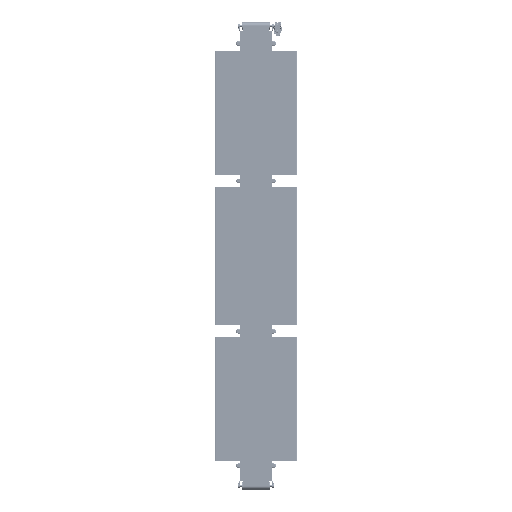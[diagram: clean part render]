
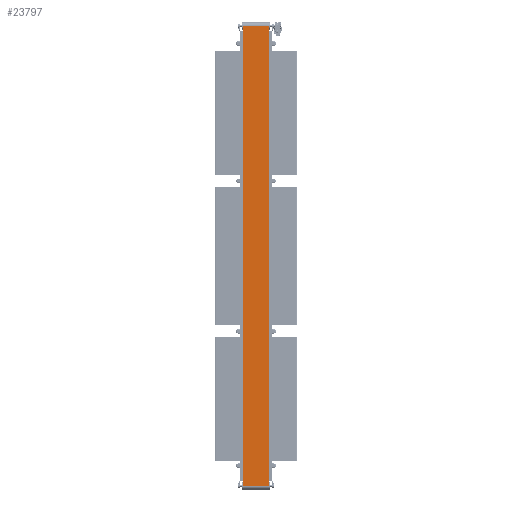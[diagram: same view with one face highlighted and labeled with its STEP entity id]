
A CAD part, top view. The second image highlights one B-rep face of the part: STEP entity #23797.
In plain terms, the highlighted planar face has unit normal (0, 0, 1).
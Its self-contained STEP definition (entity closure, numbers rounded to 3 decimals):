
#16078=PLANE('',#175318);
#23797=ADVANCED_FACE('',(#35850),#16078,.T.);
#35850=FACE_OUTER_BOUND('',#44832,.T.);
#44832=EDGE_LOOP('',(#74558,#74559,#74560,#74561));
#74558=ORIENTED_EDGE('',*,*,#129624,.T.);
#74559=ORIENTED_EDGE('',*,*,#129622,.F.);
#74560=ORIENTED_EDGE('',*,*,#129650,.F.);
#74561=ORIENTED_EDGE('',*,*,#129662,.F.);
#111205=VERTEX_POINT('',#307398);
#111206=VERTEX_POINT('',#307400);
#111207=VERTEX_POINT('',#307404);
#111229=VERTEX_POINT('',#307454);
#129622=EDGE_CURVE('',#111205,#111206,#148916,.T.);
#129624=EDGE_CURVE('',#111207,#111206,#148917,.T.);
#129650=EDGE_CURVE('',#111229,#111205,#148932,.T.);
#129662=EDGE_CURVE('',#111207,#111229,#148941,.T.);
#148916=LINE('',#307399,#161072);
#148917=LINE('',#307403,#161073);
#148932=LINE('',#307455,#161088);
#148941=LINE('',#307479,#161097);
#161072=VECTOR('',#199553,1.);
#161073=VECTOR('',#199558,1.);
#161088=VECTOR('',#199601,1.);
#161097=VECTOR('',#199630,1.);
#175318=AXIS2_PLACEMENT_3D('',#307480,#199631,#199632);
#199553=DIRECTION('',(1.,0.,0.));
#199558=DIRECTION('',(0.,1.,0.));
#199601=DIRECTION('',(0.,1.,0.));
#199630=DIRECTION('',(-1.,0.,0.));
#199631=DIRECTION('',(0.,0.,1.));
#199632=DIRECTION('',(-1.,0.,0.));
#307398=CARTESIAN_POINT('',(-200.,4875.,3.));
#307399=CARTESIAN_POINT('',(0.,4875.,3.));
#307400=CARTESIAN_POINT('',(200.,4875.,3.));
#307403=CARTESIAN_POINT('',(200.,-2175.,3.));
#307404=CARTESIAN_POINT('',(200.,-2475.,3.));
#307454=CARTESIAN_POINT('',(-200.,-2475.,3.));
#307455=CARTESIAN_POINT('',(-200.,-2475.,3.));
#307479=CARTESIAN_POINT('',(0.,-2475.,3.));
#307480=CARTESIAN_POINT('',(-200.,-2175.,3.));
